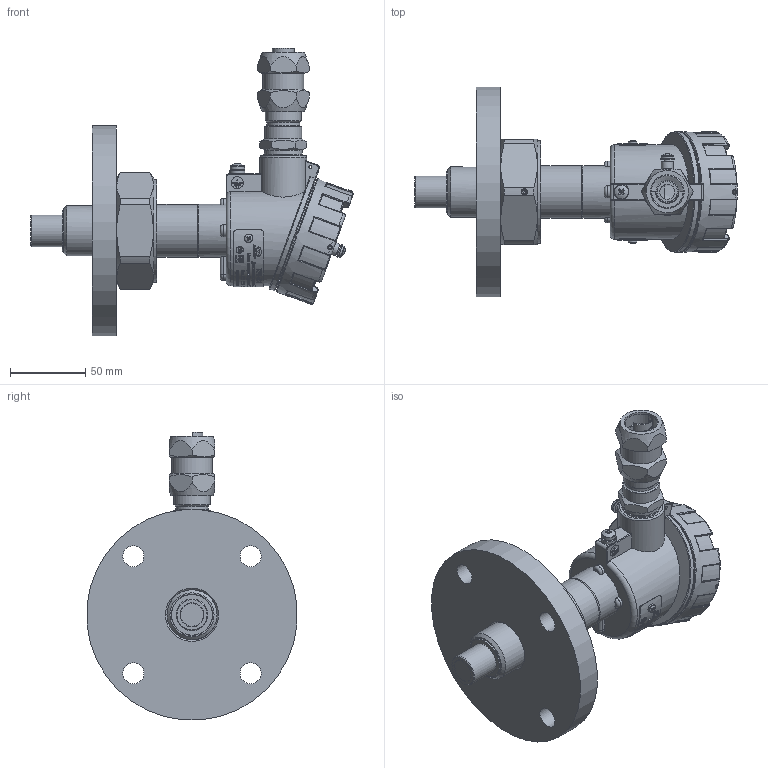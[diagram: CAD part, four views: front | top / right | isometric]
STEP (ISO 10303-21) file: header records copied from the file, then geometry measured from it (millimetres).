
FILE_DESCRIPTION(('STEP AP203'), '1');
FILE_NAME('ÓÐÇ-41-3-02-DN50-ÊÂÌ 15Âí', '', ('UNSPECIFIED'), ('UNSPECIFIED'), 'C3D Converter', 'C3D Toolkit', '');
FILE_SCHEMA(('CONFIG_CONTROL_DESIGN'));
Length unit declared in the file: millimetre
Products named in the file (1): НКГЖ.407632.005
Bounding box: 214.2 x 139.47 x 191.03 mm (x, y, z)
Volume: 511737.7 mm3; surface area: 154269.9 mm2
Topology: 2 solids, 2 shells, 5132 faces, 14134 edges, 9351 vertices
Faces by surface type: bspline 2158, plane 1798, cylinder 1003, torus 92, cone 75, sphere 6
Full cylindrical faces by diameter (mm): 2 x5, 3 x1, 3.242 x7, 4 x4, 4.3 x3, 5 x1, 5.5 x1, 5.6 x2, 7.53 x1, 8 x11, 8.5 x1, 9 x3, 9.5 x1, 10 x4, 12 x1, 13.5 x2, 14 x6, 15 x2, 18 x1, 18.376 x2, 18.8 x1, 18.92 x1, 19 x1, 21 x1, 21.5 x1, 21.8 x1, 22.376 x1, 22.5 x1, 23 x2, 24 x1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
Entity records: 643026 total; most frequent: CARTESIAN_POINT 528642, ORIENTED_EDGE 27860, DIRECTION 16133, EDGE_CURVE 13930, VERTEX_POINT 9342, B_SPLINE_CURVE_WITH_KNOTS 6400, EDGE_LOOP 5720, AXIS2_PLACEMENT_3D 5650
